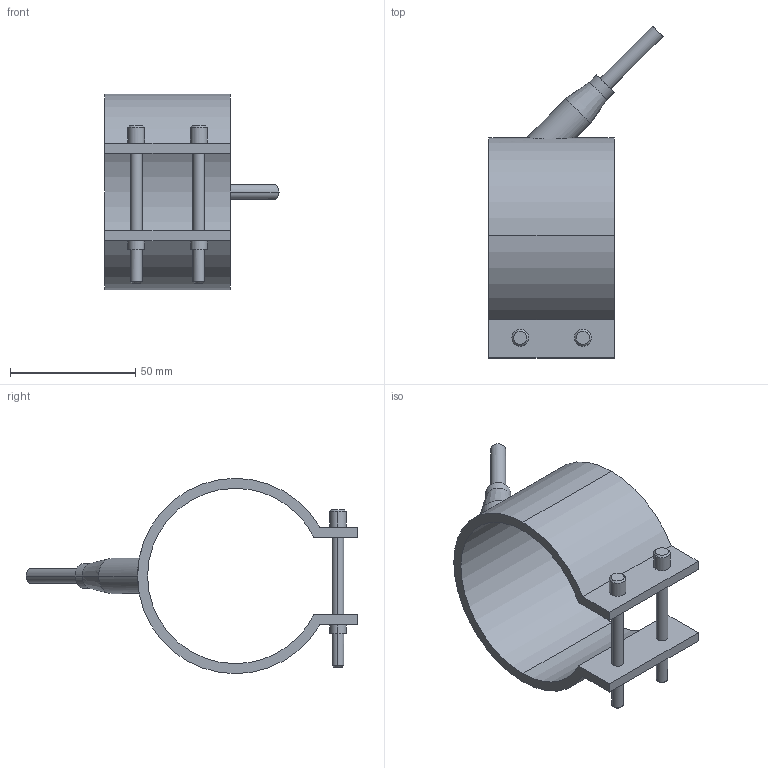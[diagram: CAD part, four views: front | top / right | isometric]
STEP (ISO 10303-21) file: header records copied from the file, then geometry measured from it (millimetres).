
FILE_DESCRIPTION(('CATIA V5 STEP Exchange'),'2;1');
FILE_NAME('C:\Users\Utente\Desktop\IO LAVORO\3D X SITO CF\X SITO\PLASTICA\RF1\29070050.stp','2021-03-27T09:42:10+00:00',('none'),('none'),'CATIA Version 5 Release 20 GA (IN-10)','CATIA V5 STEP AP203','none');
FILE_SCHEMA(('CONFIG_CONTROL_DESIGN'));
Length unit declared in the file: millimetre
Products named in the file (1): 29070050
Bounding box: 69.55 x 132.55 x 78 mm (x, y, z)
Volume: 52796.5 mm3; surface area: 28417.9 mm2
Topology: 1 solids, 1 shells, 54 faces, 126 edges, 82 vertices
Faces by surface type: cylinder 28, plane 16, cone 10
Entity records: 1761 total; most frequent: CARTESIAN_POINT 514, ORIENTED_EDGE 252, DIRECTION 213, EDGE_CURVE 126, AXIS2_PLACEMENT_3D 106, VERTEX_POINT 82, EDGE_LOOP 66, VECTOR 56
